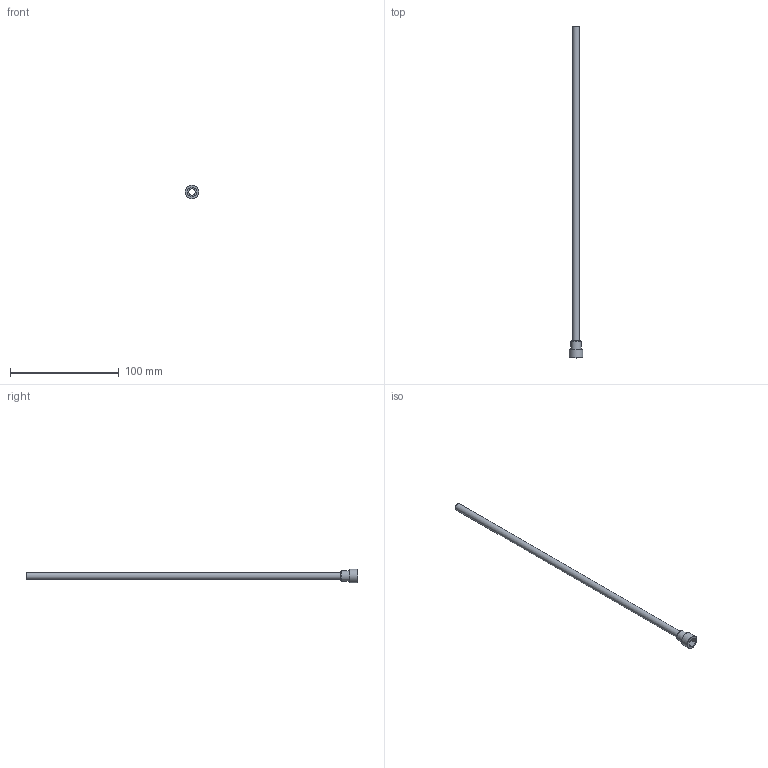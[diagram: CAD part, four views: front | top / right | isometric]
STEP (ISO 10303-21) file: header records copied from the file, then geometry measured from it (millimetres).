
FILE_DESCRIPTION(/* description */ (''),/* implementation_level */ '2;1');
FILE_NAME(/* name */ 'C:/Users/drich/Desktop/JR250T-12 v2.step',/* time_stamp */ '2019-12-30T13:05:30-06:00',/* author */ (''),/* organization */ (''),/* preprocessor_version */ 'ST-DEVELOPER v18',/* originating_system */ 'Autodesk Translation Framework v8.12.0.6',/* authorisation */ '');
FILE_SCHEMA (('AUTOMOTIVE_DESIGN { 1 0 10303 214 3 1 1 }'));
Length unit declared in the file: inch
Products named in the file (1): JR250T-12
Bounding box: 12.57 x 304.8 x 12.57 mm (x, y, z)
Volume: 2372.7 mm3; surface area: 12130.2 mm2
Topology: 1 solids, 1 shells, 19 faces, 47 edges, 33 vertices
Faces by surface type: plane 11, cylinder 4, torus 3, cone 1
Full cylindrical faces by diameter (mm): 5.842 x1, 6.35 x1, 9.406 x1, 12.573 x1
Entity records: 624 total; most frequent: DIRECTION 111, CARTESIAN_POINT 100, ORIENTED_EDGE 94, EDGE_CURVE 47, AXIS2_PLACEMENT_3D 44, VERTEX_POINT 33, EDGE_LOOP 24, CIRCLE 24
